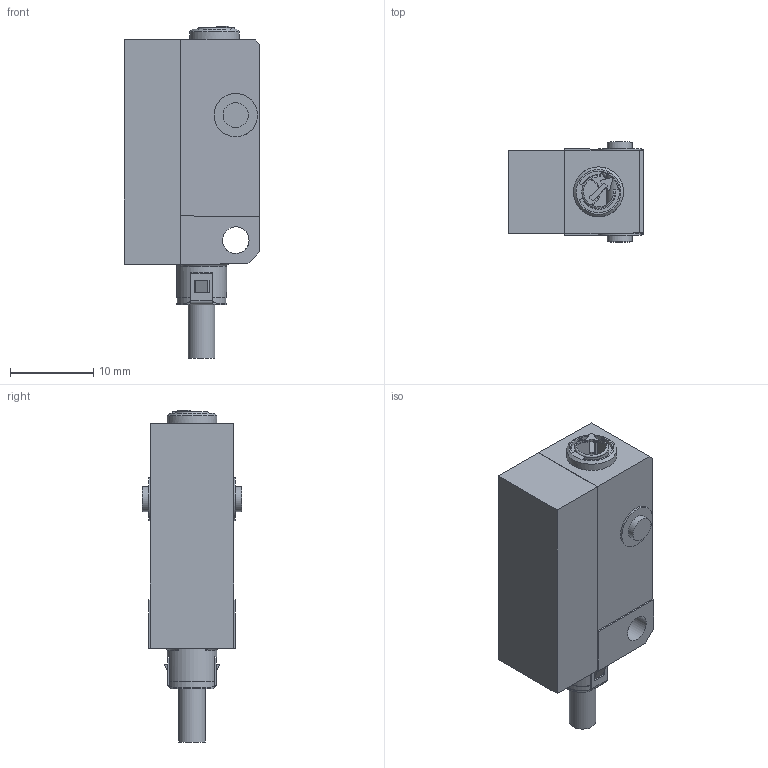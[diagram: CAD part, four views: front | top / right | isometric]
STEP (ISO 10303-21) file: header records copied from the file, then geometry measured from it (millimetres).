
FILE_DESCRIPTION( ( 'Unknown' ), '1' );
FILE_NAME( 'Z:/bereich/BECH/Services/me_CAD/Solid Edge/Models/Dokumentationen/Opto/FxDK 10_Stecker_Kabel_neu/Vereinfachte Modelle/Neutralformate/FPDK 10 Plus.stp', 'Unknown', ( 'Unknown' ), ( 'Unknown' ), 'XStep 1.0', 'Unknown', ' ' );
FILE_SCHEMA( ( 'CONFIG_CONTROL_DESIGN' ) );
Length unit declared in the file: millimetre
Products named in the file (1): 1
Bounding box: 16.3 x 12 x 39.85 mm (x, y, z)
Volume: 4549.6 mm3; surface area: 2093.7 mm2
Topology: 1 solids, 1 shells, 124 faces, 326 edges, 212 vertices
Faces by surface type: plane 91, cylinder 30, bspline 1, cone 1, torus 1
Full cylindrical faces by diameter (mm): 3 x2, 3.2 x2, 3.5 x1, 5.2 x2, 6 x2
Entity records: 4064 total; most frequent: CARTESIAN_POINT 989, ORIENTED_EDGE 624, DIRECTION 610, EDGE_CURVE 312, LINE 226, VECTOR 226, VERTEX_POINT 208, AXIS2_PLACEMENT_3D 192
